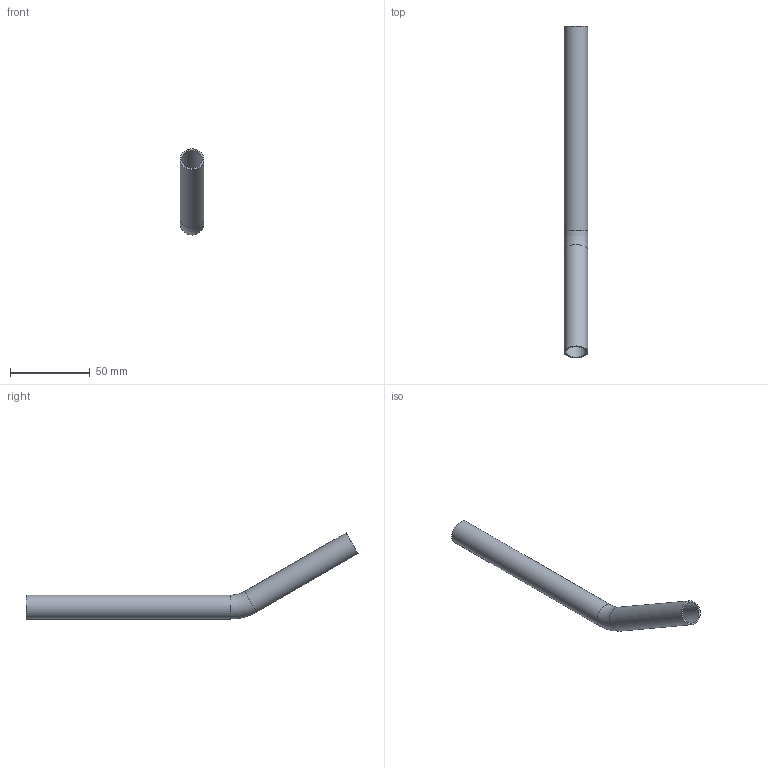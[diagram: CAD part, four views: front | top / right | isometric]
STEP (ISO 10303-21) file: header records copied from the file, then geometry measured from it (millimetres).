
FILE_DESCRIPTION(('STEP AP203'), '1');
FILE_NAME('ÂÐ.747111.004 - VTi.955.I.301515 Îòâîä 30 ãð. d15 (80õ135)', '', ('UNSPECIFIED'), ('UNSPECIFIED'), 'C3D Converter', 'C3D Toolkit', '');
FILE_SCHEMA(('CONFIG_CONTROL_DESIGN'));
Length unit declared in the file: millimetre
Products named in the file (1): ВР.747111.004
Bounding box: 15 x 208.03 x 54 mm (x, y, z)
Volume: 9442.7 mm3; surface area: 18973.3 mm2
Topology: 1 solids, 1 shells, 8 faces, 14 edges, 8 vertices
Faces by surface type: cylinder 4, torus 2, plane 2
Full cylindrical faces by diameter (mm): 13 x2, 15 x2
Entity records: 208 total; most frequent: DIRECTION 34, CARTESIAN_POINT 25, AXIS2_PLACEMENT_3D 17, EDGE_LOOP 16, ORIENTED_EDGE 16, FACE_OUTER_BOUND 12, ADVANCED_FACE 8, EDGE_CURVE 8
